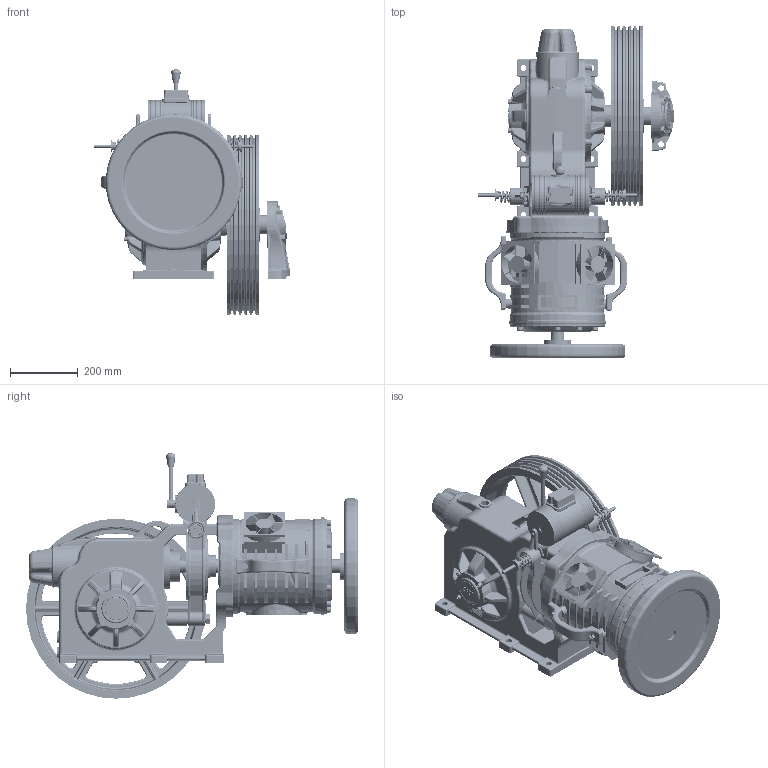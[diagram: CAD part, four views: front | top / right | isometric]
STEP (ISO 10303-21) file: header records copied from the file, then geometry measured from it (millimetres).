
FILE_DESCRIPTION (( 'STEP AP214' ), '1' );
FILE_NAME ('SMC5505021.STEP', '2026-02-02T09:26:32', ( '' ), ( '' ), 'SwSTEP 2.0', 'SolidWorks 2025', '' );
FILE_SCHEMA (( 'AUTOMOTIVE_DESIGN' ));
Length unit declared in the file: millimetre
Products named in the file (1): SMC5505021
Bounding box: 576.66 x 977.38 x 722.5 mm (x, y, z)
Volume: 59292037.6 mm3; surface area: 3852976.5 mm2
Topology: 34 solids, 71 shells, 5171 faces, 12282 edges, 7373 vertices
Faces by surface type: cylinder 1502, bspline 1355, plane 1333, cone 460, torus 420, sphere 101
Entity records: 213371 total; most frequent: CARTESIAN_POINT 102903, ORIENTED_EDGE 24408, DIRECTION 21345, EDGE_CURVE 12204, AXIS2_PLACEMENT_3D 8744, VERTEX_POINT 7365, EDGE_LOOP 5593, ADVANCED_FACE 5171
